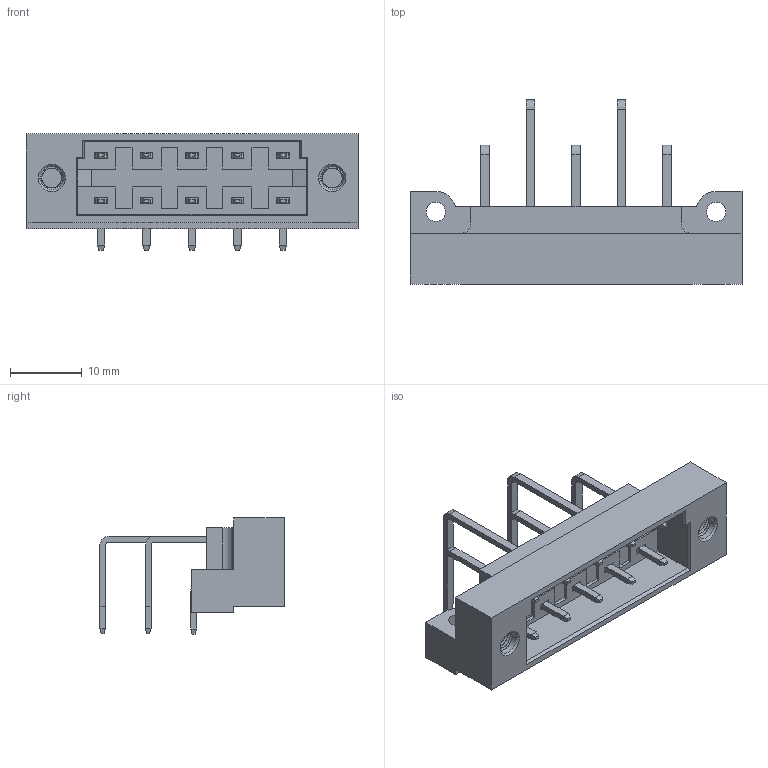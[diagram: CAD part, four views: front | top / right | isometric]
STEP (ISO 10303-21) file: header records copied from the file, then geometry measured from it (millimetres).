
FILE_DESCRIPTION((''),'2;1');
FILE_NAME('5P','2022-06-17T',('renkang.li'),(''),'CREO PARAMETRIC BY PTC INC, 2016260','CREO PARAMETRIC BY PTC INC, 2016260','');
FILE_SCHEMA(('CONFIG_CONTROL_DESIGN'));
Length unit declared in the file: millimetre
Products named in the file (1): 5P
Bounding box: 46.35 x 25.74 x 16.2 mm (x, y, z)
Volume: 2802.2 mm3; surface area: 6025.7 mm2
Topology: 1 solids, 1 shells, 1071 faces, 3304 edges, 2158 vertices
Faces by surface type: plane 953, cylinder 102, cone 8, bspline 8
Entity records: 39386 total; most frequent: CARTESIAN_POINT 9607, ORIENTED_EDGE 6608, DIRECTION 5598, EDGE_CURVE 3304, VECTOR 3056, LINE 3056, VERTEX_POINT 2158, AXIS2_PLACEMENT_3D 1271
